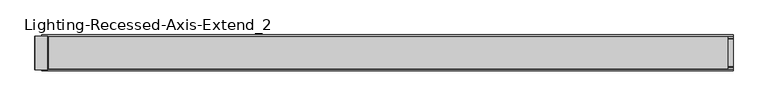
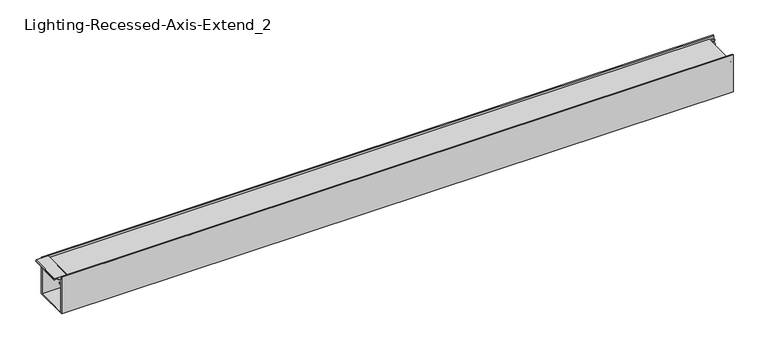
"""IFC4 building model written with IfcOpenShell, lengths in millimetres: light fixture geometry, Lighting-Recessed-Axis-Extend_2 : EX2R-900-80-35-SO-4."""

from ifc_helpers import new_model, si_unit, point, frame, frame_2d, origin, place, context, project, spatial, polyline, circle_curve, trimmed, segment, composite_curve, outline, extrude, source, transform, mapped, element, save


def lighting_recessed_axis_extend_2_a5cec84b(model_context):
    return source(origin(), model_context, "Body", "SweptSolid", [
        extrude(outline(polyline([(-1.1017139, -606.6536), (0.0, -607.5781437), (0.0, -629.9352563), (-1.1017139, -630.8598), (-2.57175, -630.8598), (-2.57175, -630.06605), (-1.778, -630.06605), (-1.778, -623.5954), (-4.5842019, -623.5954), (-4.5842019, -613.918), (-1.778, -613.918), (-1.778, -607.44735), (-2.57175, -607.44735), (-2.57175, -606.6536), (-1.1017139, -606.6536)])), frame((0.0, -29.972, 0.0), z_axis=(0.0, 1.0, 0.0), x_axis=(0.0, 0.0, 1.0)), (0.0, 0.0, 1.0), 59.944),
        extrude(outline(composite_curve([segment(polyline([(-24.1727262, -4.8895009), (-24.5114181, -11.3521263)]), True, "CONTINUOUS"), segment(trimmed(circle_curve(frame_2d((-27.2542, -14.351)), 4.064), [point((-24.5114181, -11.3521263))], [point((-25.3818814, -17.9580097))], False, "CARTESIAN"), True, "CONTINUOUS"), segment(trimmed(circle_curve(frame_2d((-22.149344, -17.1691543)), 3.3274001), [point((-25.3818814, -17.9580097))], [point((-24.5665956, -19.4557425))], True, "CARTESIAN"), True, "CONTINUOUS"), segment(trimmed(circle_curve(frame_2d((-17.1303177, -12.4214292)), 10.2362001), [point((-24.5665956, -19.4557425))], [point((-23.2119066, -20.6551445))], True, "CARTESIAN"), True, "CONTINUOUS"), segment(trimmed(circle_curve(frame_2d((-23.7023573, -21.3191538)), 0.8255), [point((-23.2119066, -20.6551445))], [point((-24.192808, -21.9831631))], False, "CARTESIAN"), True, "CONTINUOUS"), segment(trimmed(circle_curve(frame_2d((-17.1303169, -12.4214283)), 11.8872013), [point((-24.192808, -21.9831631))], [point((-25.7659952, -20.5903092))], False, "CARTESIAN"), True, "CONTINUOUS"), segment(trimmed(circle_curve(frame_2d((-22.149344, -17.1691543)), 4.9784001), [point((-25.7659952, -20.5903092))], [point((-27.1108807, -16.75974))], False, "CARTESIAN"), True, "CONTINUOUS"), segment(trimmed(circle_curve(frame_2d((-27.2542, -14.351)), 2.413), [point((-27.1108807, -16.75974))], [point((-25.4753941, -12.7205342))], True, "CARTESIAN"), True, "CONTINUOUS"), segment(trimmed(circle_curve(frame_2d((-23.6029669, -11.0042544)), 2.54), [point((-25.4753941, -12.7205342))], [point((-26.1394859, -10.8713211))], False, "CARTESIAN"), True, "CONTINUOUS"), segment(polyline([(-26.1394859, -10.8713211), (-25.825992, -4.8895009), (-28.829, -4.8895009), (-28.829, -2.9845), (28.829, -2.9845), (28.829, -4.8895009), (25.825992, -4.8895009), (26.1394859, -10.8713211)]), True, "CONTINUOUS"), segment(trimmed(circle_curve(frame_2d((23.6029669, -11.0042544)), 2.54), [point((26.1394859, -10.8713211))], [point((25.4753941, -12.7205342))], False, "CARTESIAN"), True, "CONTINUOUS"), segment(trimmed(circle_curve(frame_2d((27.2542, -14.351)), 2.413), [point((25.4753941, -12.7205342))], [point((27.1108807, -16.75974))], True, "CARTESIAN"), True, "CONTINUOUS"), segment(trimmed(circle_curve(frame_2d((22.149344, -17.1691543)), 4.9784001), [point((27.1108807, -16.75974))], [point((25.7659952, -20.5903092))], False, "CARTESIAN"), True, "CONTINUOUS"), segment(trimmed(circle_curve(frame_2d((17.1303169, -12.4214283)), 11.8872013), [point((25.7659952, -20.5903092))], [point((24.192808, -21.9831631))], False, "CARTESIAN"), True, "CONTINUOUS"), segment(trimmed(circle_curve(frame_2d((23.7023573, -21.3191538)), 0.8255), [point((24.192808, -21.9831631))], [point((23.2119066, -20.6551445))], False, "CARTESIAN"), True, "CONTINUOUS"), segment(trimmed(circle_curve(frame_2d((17.1303177, -12.4214292)), 10.2362001), [point((23.2119066, -20.6551445))], [point((24.5665956, -19.4557425))], True, "CARTESIAN"), True, "CONTINUOUS"), segment(trimmed(circle_curve(frame_2d((22.149344, -17.1691543)), 3.3274001), [point((24.5665956, -19.4557425))], [point((25.3818814, -17.9580097))], True, "CARTESIAN"), True, "CONTINUOUS"), segment(trimmed(circle_curve(frame_2d((27.2542, -14.351)), 4.064), [point((25.3818814, -17.9580097))], [point((24.5114181, -11.3521263))], False, "CARTESIAN"), True, "CONTINUOUS"), segment(polyline([(24.5114181, -11.3521263), (24.1727262, -4.8895009), (-24.1727262, -4.8895009)]), True, "CONTINUOUS")], self_intersect=False)), frame((-609.6, 0.0, 0.0), z_axis=(1.0, 0.0, 0.0), x_axis=(0.0, 1.0, 0.0)), (0.0, 0.0, 1.0), 1219.2),
        extrude(outline(composite_curve([segment(polyline([(-29.972, -14.9098), (-29.972, -69.4055), (29.972, -69.4055), (29.972, -14.9098), (28.1325797, -14.9098)]), True, "CONTINUOUS"), segment(trimmed(circle_curve(frame_2d((26.6262297, -14.9098)), 1.5063501), [point((28.1325797, -14.9098))], [point((25.8730546, -16.2143374))], False, "CARTESIAN"), True, "CONTINUOUS"), segment(trimmed(circle_curve(frame_2d((27.0642121, -14.1511921)), 2.382315), [point((25.8730546, -16.2143374))], [point((24.6896516, -13.9591318))], False, "CARTESIAN"), True, "CONTINUOUS"), segment(polyline([(24.6896516, -13.9591318), (28.067, -11.1252), (28.067, -12.8778), (29.972, -12.8778), (29.972, -6.35), (28.067, -6.35), (28.067, -7.874), (26.416, -7.7874748), (26.416, -5.08), (29.972, -5.08), (29.972, 0.0), (32.004, 0.0), (32.004, -71.4375), (-32.004, -71.4375), (-32.004, 0.0), (-29.972, 0.0), (-29.972, -5.08), (-26.416, -5.08), (-26.416, -7.7874748), (-28.067, -7.874), (-28.067, -6.35), (-29.972, -6.35), (-29.972, -12.8778), (-28.067, -12.8778), (-28.067, -11.1252), (-24.6896516, -13.9591318)]), True, "CONTINUOUS"), segment(trimmed(circle_curve(frame_2d((-27.0642121, -14.1511921)), 2.382315), [point((-24.6896516, -13.9591318))], [point((-25.8730546, -16.2143374))], False, "CARTESIAN"), True, "CONTINUOUS"), segment(trimmed(circle_curve(frame_2d((-26.6262297, -14.9098)), 1.5063501), [point((-25.8730546, -16.2143374))], [point((-28.1325797, -14.9098))], False, "CARTESIAN"), True, "CONTINUOUS"), segment(polyline([(-28.1325797, -14.9098), (-29.972, -14.9098)]), True, "CONTINUOUS")], self_intersect=False)), frame((-618.7567, 0.0, 0.0), z_axis=(1.0, 0.0, 0.0), x_axis=(0.0, 1.0, 0.0)), (0.0, 0.0, 1.0), 1237.5134),
    ])


if __name__ == "__main__":
    model = new_model("IFC4")
    model_context = context("Model", 3, world=origin())
    ifc_project = project(units=[si_unit("LENGTHUNIT", "METRE", prefix="MILLI")], contexts=[model_context])
    site = spatial("IfcSite", under=ifc_project)
    building = spatial("IfcBuilding", under=site)
    placement = place(None, origin())
    lighting_recessed_axis_extend_2_shape = lighting_recessed_axis_extend_2_a5cec84b(model_context)
    element("IfcLightFixture", 1, ObjectType="Lighting-Recessed-Axis-Extend_2 : EX2R-900-80-35-SO-4", at=placement, inside=building, context=model_context, shape_type="MappedRepresentation", body=[
        mapped(lighting_recessed_axis_extend_2_shape, transform((0.0, 0.0, 0.0), x_axis=(1.0, 0.0, 0.0), y_axis=(0.0, 1.0, 0.0), z_axis=(0.0, 0.0, 1.0))),
    ])
    save(model, "model.ifc")
